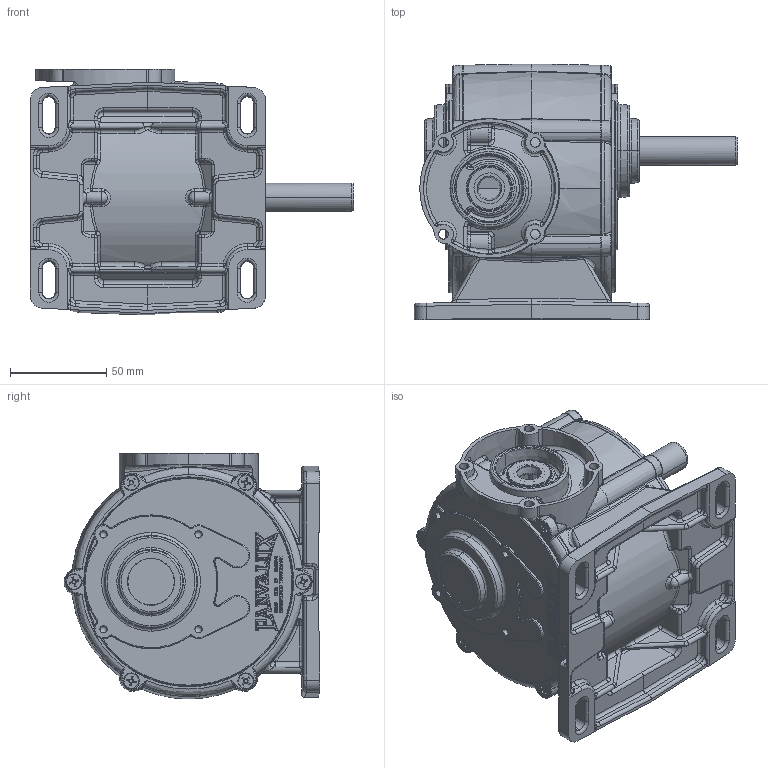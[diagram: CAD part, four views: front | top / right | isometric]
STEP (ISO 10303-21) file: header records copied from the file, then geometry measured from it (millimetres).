
FILE_DESCRIPTION (( 'STEP AP214' ), '1' );
FILE_NAME ('LWS_render model.STEP', '2023-10-24T09:50:17', ( '' ), ( '' ), 'SwSTEP 2.0', 'SolidWorks 2023', '' );
FILE_SCHEMA (( 'AUTOMOTIVE_DESIGN' ));
Length unit declared in the file: millimetre
Products named in the file (1): LWS_render model
Bounding box: 168.07 x 132.99 x 127.93 mm (x, y, z)
Volume: 428715 mm3; surface area: 235755.6 mm2
Topology: 23 solids, 23 shells, 7306 faces, 19689 edges, 12710 vertices
Faces by surface type: plane 4757, bspline 969, cone 832, cylinder 470, torus 231, sphere 47
Entity records: 390523 total; most frequent: CARTESIAN_POINT 134724, ORIENTED_EDGE 39302, DIRECTION 31772, EDGE_CURVE 19651, VECTOR 13782, LINE 13782, VERTEX_POINT 12706, AXIS2_PLACEMENT_3D 8995
